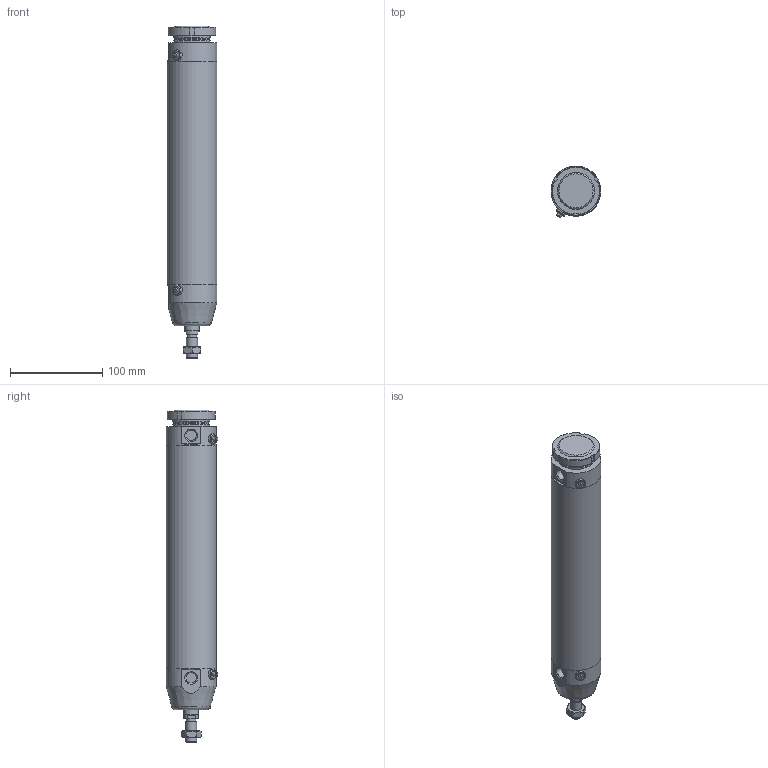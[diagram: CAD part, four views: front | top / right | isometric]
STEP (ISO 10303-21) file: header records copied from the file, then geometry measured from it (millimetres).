
FILE_DESCRIPTION(/* description */ (''),/* implementation_level */ '2;1');
FILE_NAME(/* name */ 'I:\Area Tecnica\Documenti\A-Manieri\_Inventor\12X\12X#B_###_####_#_#\12XBB_050_0200_#_#.stp',/* time_stamp */ '2015-04-28T14:29:01+02:00',/* author */ ('maniean1'),/* organization */ ('Pneumax S.p.A.'),/* preprocessor_version */ 'ST-DEVELOPER v15.2',/* originating_system */ 'Autodesk Inventor 2014',/* authorisation */ '');
FILE_SCHEMA (('AUTOMOTIVE_DESIGN { 1 0 10303 214 3 1 1 }'));
Length unit declared in the file: millimetre
Products named in the file (7): C1250_619-0200; 12X50_614; S12X50_0200; 12X_50_11; 12X50_621; G12X_050_05; 12XBB_050_0200_#_#
Bounding box: 54 x 55.88 x 360 mm (x, y, z)
Volume: 373106.1 mm3; surface area: 132780.6 mm2
Topology: 6 solids, 6 shells, 98 faces, 217 edges, 140 vertices
Faces by surface type: plane 52, cylinder 24, cone 19, torus 3
Full cylindrical faces by diameter (mm): 5 x2, 10.2 x1, 11 x2, 11.4 x2, 12 x2, 14 x1, 15.6 x1, 16 x1, 38.2 x1, 40 x3, 50 x2, 54 x3
Entity records: 2646 total; most frequent: CARTESIAN_POINT 539, DIRECTION 439, ORIENTED_EDGE 346, AXIS2_PLACEMENT_3D 186, EDGE_CURVE 173, EDGE_LOOP 150, VERTEX_POINT 131, ADVANCED_FACE 98
